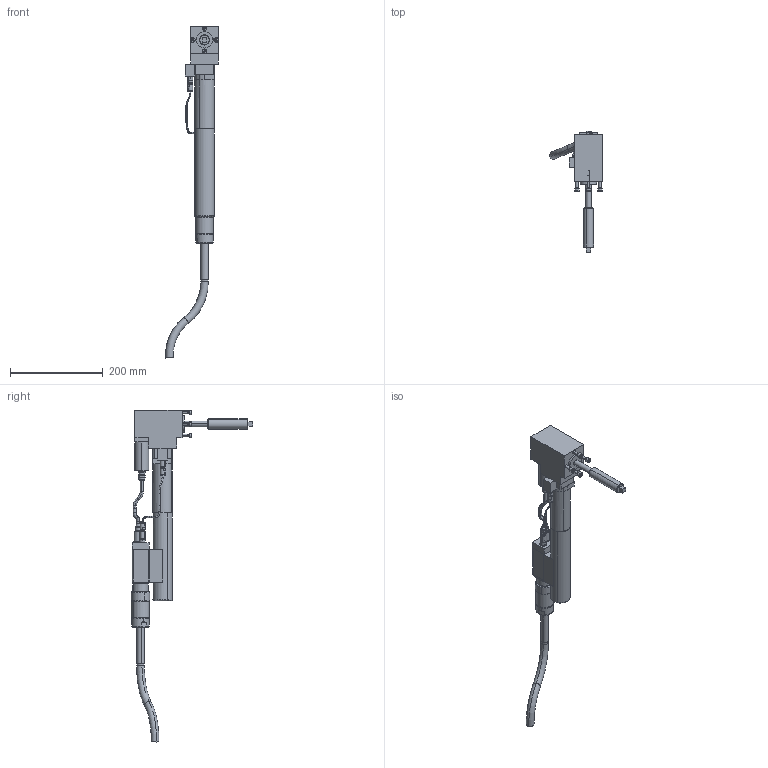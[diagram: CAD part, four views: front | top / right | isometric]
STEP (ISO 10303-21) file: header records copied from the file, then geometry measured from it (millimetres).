
FILE_DESCRIPTION(('CATIA V5 STEP Exchange'),'2;1');
FILE_NAME('O:\3D-Schrauber\Einschauschrauber Groesse1 CATIA V4+V5\7920283_ECR103_W1_AWD150-35_AllCATPart.stp','2008-11-06T10:36:31+00:00',('none'),('none'),'CATIA Version 5 Release 16 (IN-10)','CATIA V5 STEP AP203','none');
FILE_SCHEMA(('CONFIG_CONTROL_DESIGN'));
Length unit declared in the file: millimetre
Products named in the file (1): 7920283_ECR103_W1_AWD150-35_AllCATPart
Bounding box: 113.82 x 262.23 x 716.16 mm (x, y, z)
Volume: 1402931.5 mm3; surface area: 186397 mm2
Topology: 21 solids, 21 shells, 513 faces, 1158 edges, 726 vertices
Faces by surface type: plane 231, cylinder 174, cone 56, torus 48, bspline 4
Entity records: 13733 total; most frequent: CARTESIAN_POINT 3024, ORIENTED_EDGE 2296, DIRECTION 1840, EDGE_CURVE 1148, AXIS2_PLACEMENT_3D 906, VERTEX_POINT 725, VECTOR 563, LINE 563
